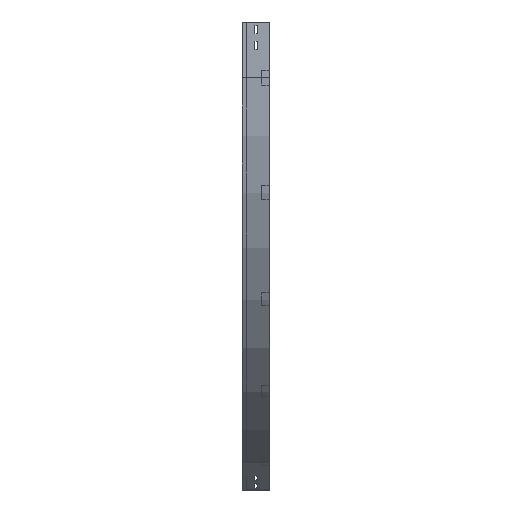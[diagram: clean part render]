
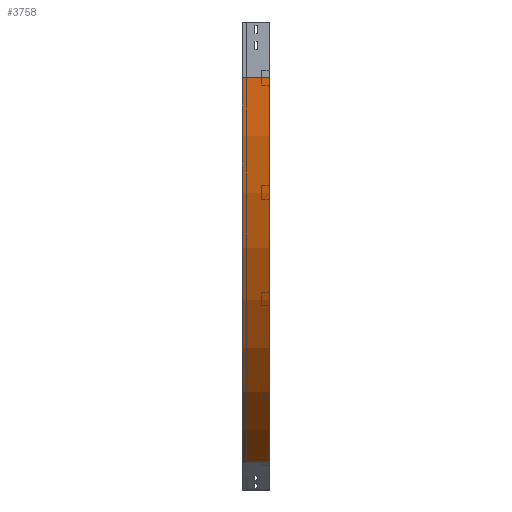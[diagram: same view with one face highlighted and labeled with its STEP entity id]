
A CAD part, left-side view. The second image highlights one B-rep face of the part: STEP entity #3758.
In plain terms, the highlighted cylindrical face has radius 1200 mm (diameter 2400 mm), a partial arc.
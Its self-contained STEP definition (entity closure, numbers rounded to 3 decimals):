
#439 = EDGE_CURVE ( 'NONE', #1547, #2169, #676, .T. ) ;
#534 = DIRECTION ( 'NONE',  ( -1., 0., 0. ) ) ;
#631 = CARTESIAN_POINT ( 'NONE',  ( 1200., 0., -150. ) ) ;
#676 = CIRCLE ( 'NONE', #2018, 1200. ) ;
#979 = EDGE_CURVE ( 'NONE', #1211, #1716, #3684, .T. ) ;
#1016 = CARTESIAN_POINT ( 'NONE',  ( 1200., 0., -150. ) ) ;
#1211 = VERTEX_POINT ( 'NONE', #3533 ) ;
#1240 = VECTOR ( 'NONE', #3722, 1000. ) ;
#1344 = AXIS2_PLACEMENT_3D ( 'NONE', #1016, #1618, #2809 ) ;
#1382 = EDGE_CURVE ( 'NONE', #2169, #1716, #3116, .T. ) ;
#1489 = EDGE_CURVE ( 'NONE', #1547, #1211, #2268, .T. ) ;
#1547 = VERTEX_POINT ( 'NONE', #2547 ) ;
#1594 = CARTESIAN_POINT ( 'NONE',  ( 600., 0., -1189.23 ) ) ;
#1618 = DIRECTION ( 'NONE',  ( 0., -1., 0. ) ) ;
#1674 = DIRECTION ( 'NONE',  ( 0., -1., 0. ) ) ;
#1716 = VERTEX_POINT ( 'NONE', #1594 ) ;
#1856 = CARTESIAN_POINT ( 'NONE',  ( 600., 0., -1189.23 ) ) ;
#1870 = ORIENTED_EDGE ( 'NONE', *, *, #1489, .F. ) ;
#1995 = FACE_OUTER_BOUND ( 'NONE', #3791, .T. ) ;
#2018 = AXIS2_PLACEMENT_3D ( 'NONE', #3203, #2272, #534 ) ;
#2045 = DIRECTION ( 'NONE',  ( 0., 0., -1. ) ) ;
#2169 = VERTEX_POINT ( 'NONE', #3772 ) ;
#2268 = LINE ( 'NONE', #3823, #3625 ) ;
#2272 = DIRECTION ( 'NONE',  ( 0., -1., 0. ) ) ;
#2547 = CARTESIAN_POINT ( 'NONE',  ( 0., 75., -150. ) ) ;
#2681 = DIRECTION ( 'NONE',  ( 0., -1., 0. ) ) ;
#2809 = DIRECTION ( 'NONE',  ( -1., 0., 0. ) ) ;
#2888 = ORIENTED_EDGE ( 'NONE', *, *, #439, .T. ) ;
#3116 = LINE ( 'NONE', #1856, #1240 ) ;
#3197 = ORIENTED_EDGE ( 'NONE', *, *, #1382, .T. ) ;
#3203 = CARTESIAN_POINT ( 'NONE',  ( 1200., 75., -150. ) ) ;
#3365 = ORIENTED_EDGE ( 'NONE', *, *, #979, .F. ) ;
#3403 = AXIS2_PLACEMENT_3D ( 'NONE', #631, #2681, #2045 ) ;
#3533 = CARTESIAN_POINT ( 'NONE',  ( 0., 0., -150. ) ) ;
#3625 = VECTOR ( 'NONE', #1674, 1000. ) ;
#3684 = CIRCLE ( 'NONE', #1344, 1200. ) ;
#3722 = DIRECTION ( 'NONE',  ( 0., -1., 0. ) ) ;
#3758 = ADVANCED_FACE ( 'NONE', ( #1995 ), #3851, .T. ) ;
#3772 = CARTESIAN_POINT ( 'NONE',  ( 600., 75., -1189.23 ) ) ;
#3791 = EDGE_LOOP ( 'NONE', ( #3365, #1870, #2888, #3197 ) ) ;
#3823 = CARTESIAN_POINT ( 'NONE',  ( 0., 0., -150. ) ) ;
#3851 = CYLINDRICAL_SURFACE ( 'NONE', #3403, 1200. ) ;
